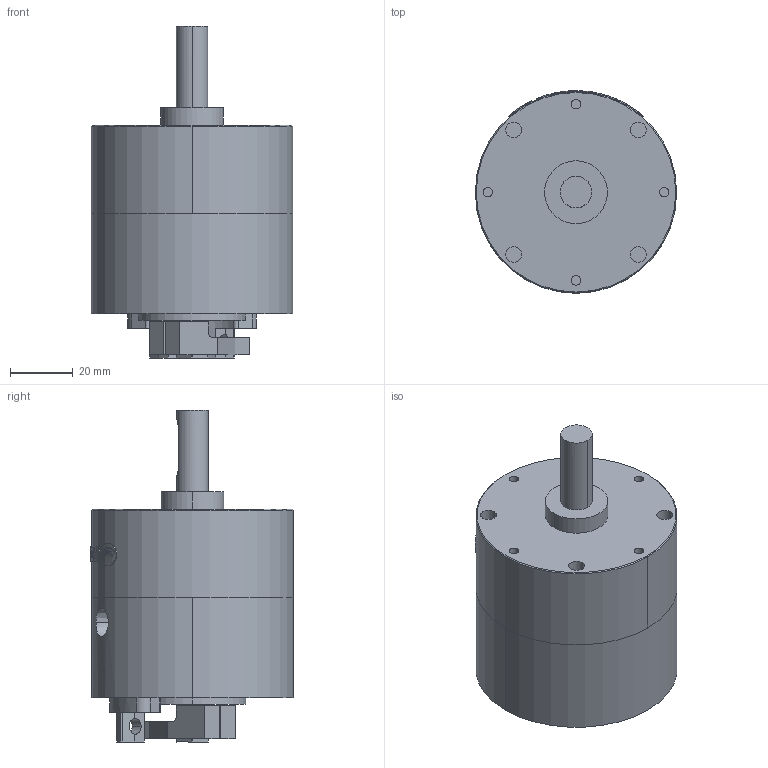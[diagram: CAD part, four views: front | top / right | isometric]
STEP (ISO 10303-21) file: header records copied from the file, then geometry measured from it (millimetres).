
FILE_DESCRIPTION (( 'STEP AP203' ), '1' );
FILE_NAME ('PROA30S_D-#-#.STEP', '2016-02-04T07:05:10', ( 'Sam Lin' ), ( '' ), 'SwSTEP 2.0', 'SolidWorks 2013', '' );
FILE_SCHEMA (( 'CONFIG_CONTROL_DESIGN' ));
Length unit declared in the file: metre
Products named in the file (7): PROA30D-#-# (1); PROA30D-#-# (5); PROA30D-#-# (7); mark-PROA30S; PROA30S_D-#-#; PROA30D-#-# (2); PROA30D-#-# (3)
Assembly tree (6 placements, depth 2):
  PROA30S_D-#-#
    PROA30D-#-# (2)
    PROA30D-#-# (3)
    PROA30D-#-# (1)
    PROA30D-#-# (5)
    PROA30D-#-# (7)
    mark-PROA30S
Bounding box: 64 x 64.3 x 105.5 mm (x, y, z)
Volume: 200380.5 mm3; surface area: 37946.6 mm2
Topology: 13 solids, 13 shells, 350 faces, 850 edges, 564 vertices
Faces by surface type: cylinder 157, plane 148, bspline 35, cone 10
Entity records: 15199 total; most frequent: CARTESIAN_POINT 6152, DIRECTION 1758, ORIENTED_EDGE 1692, EDGE_CURVE 846, AXIS2_PLACEMENT_3D 678, VERTEX_POINT 564, EDGE_LOOP 418, VECTOR 402
